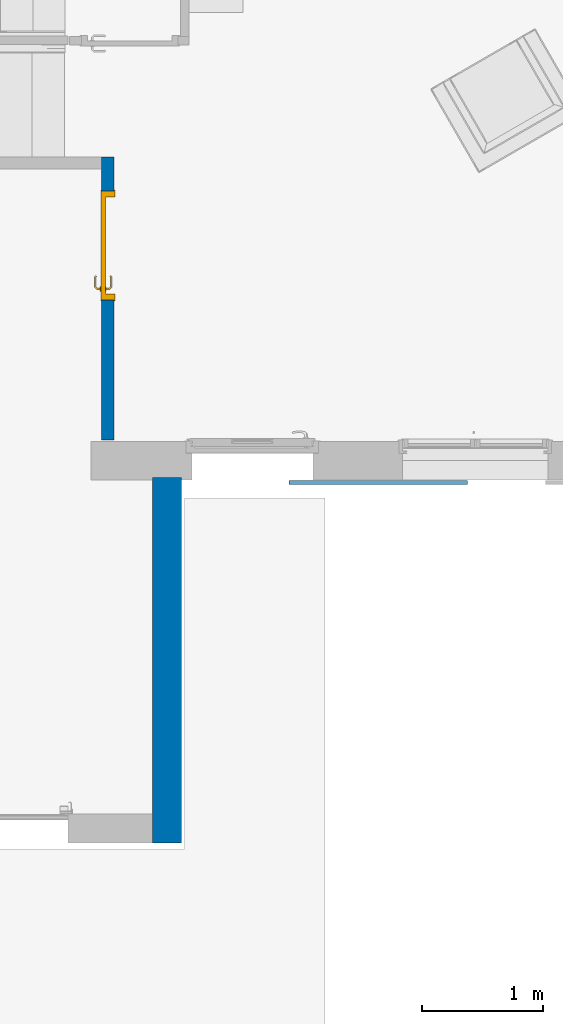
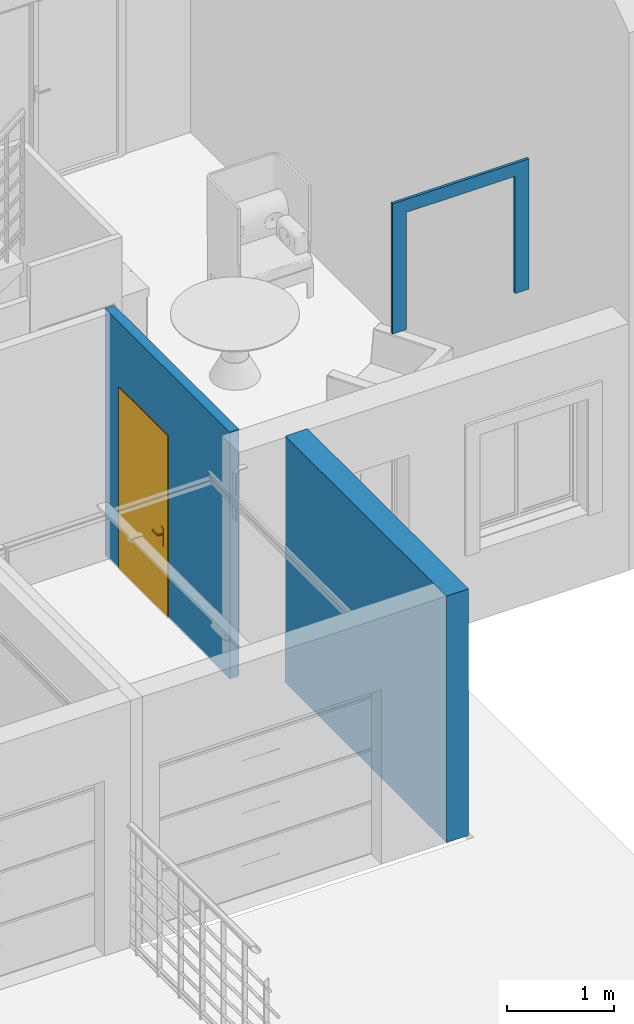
# One storey, part 19 of 30: 3 walls, 1 door, 2 openings.
"""IFC2X3 building model written with IfcOpenShell, lengths in metres."""

from ifc_helpers import new_model, entity, si_unit, converted_unit, derived_unit, direction, frame, frame_2d, origin, place, context, subcontext, project, spatial, rectangle, extrude, clip, halfspace, faceted_brep, source, transform, mapped, material, material_list, layer, layer_set, layer_usage, type_object, type_shapes, element, fill, save


model = new_model("IFC2X3")

# Units and contexts
model_context = context("Model", 3, precision=1e-05, world=origin(), true_north=direction((6.12303176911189e-17, 1.0)))
body_context = subcontext(model_context, "Body", "Model", "MODEL_VIEW")
ifc_project = project(units=[si_unit("LENGTHUNIT", "METRE"), si_unit("AREAUNIT", "SQUARE_METRE"), si_unit("VOLUMEUNIT", "CUBIC_METRE"), converted_unit("PLANEANGLEUNIT", "DEGREE", entity("IfcRatioMeasure", 0.0174532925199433), si_unit("PLANEANGLEUNIT", "RADIAN"), dimensions=[0, 0, 0, 0, 0, 0, 0]), si_unit("MASSUNIT", "GRAM", prefix="KILO"), derived_unit("MASSDENSITYUNIT", [(si_unit("MASSUNIT", "GRAM", prefix="KILO"), 1), (si_unit("LENGTHUNIT", "METRE"), -3)]), si_unit("TIMEUNIT", "SECOND"), si_unit("FREQUENCYUNIT", "HERTZ"), si_unit("THERMODYNAMICTEMPERATUREUNIT", "DEGREE_CELSIUS"), derived_unit("THERMALTRANSMITTANCEUNIT", [(si_unit("MASSUNIT", "GRAM", prefix="KILO"), 1), (si_unit("THERMODYNAMICTEMPERATUREUNIT", "KELVIN"), -1), (si_unit("TIMEUNIT", "SECOND"), -3)]), derived_unit("VOLUMETRICFLOWRATEUNIT", [(si_unit("LENGTHUNIT", "METRE"), 3), (si_unit("TIMEUNIT", "SECOND"), -1)]), si_unit("ELECTRICCURRENTUNIT", "AMPERE"), si_unit("ELECTRICVOLTAGEUNIT", "VOLT"), si_unit("POWERUNIT", "WATT"), si_unit("FORCEUNIT", "NEWTON", prefix="KILO"), si_unit("ILLUMINANCEUNIT", "LUX"), si_unit("LUMINOUSFLUXUNIT", "LUMEN"), si_unit("LUMINOUSINTENSITYUNIT", "CANDELA"), derived_unit("USERDEFINED", [(si_unit("MASSUNIT", "GRAM", prefix="KILO"), -1), (si_unit("LENGTHUNIT", "METRE"), -2), (si_unit("TIMEUNIT", "SECOND"), 3), (si_unit("LUMINOUSFLUXUNIT", "LUMEN"), 1)]), derived_unit("LINEARVELOCITYUNIT", [(si_unit("LENGTHUNIT", "METRE"), 1), (si_unit("TIMEUNIT", "SECOND"), -1)]), si_unit("PRESSUREUNIT", "PASCAL"), derived_unit("USERDEFINED", [(si_unit("LENGTHUNIT", "METRE"), -2), (si_unit("MASSUNIT", "GRAM", prefix="KILO"), 1), (si_unit("TIMEUNIT", "SECOND"), -2)])], contexts=[model_context])

# Site, building, storey
site_placement = place(None, origin())
site = spatial("IfcSite", under=ifc_project, at=site_placement, Name="Surface", CompositionType="ELEMENT")
building_placement = place(site_placement, origin())
building = spatial("IfcBuilding", under=site, at=building_placement, CompositionType="ELEMENT")
storey_placement = place(building_placement, origin())
storey = spatial("IfcBuildingStorey", under=building, at=storey_placement, Name="Plan des fondations  Maisons 1 et 2", CompositionType="ELEMENT", Elevation=0.0)

# Wall
ifc_material_1 = material(Name="Enduit  gris")
ifc_layer_1 = layer(ifc_material_1, 0.02)
ifc_material_2 = material(Name="Parpaing")
ifc_layer_2 = layer(ifc_material_2, 0.2)
ifc_layer_3 = layer(ifc_material_1, 0.02)
ifc_layer_set_1 = layer_set([ifc_layer_1, ifc_layer_2, ifc_layer_3], Name="Mur de base:Ext. Parpaing 2 + 20 + 2 gris")
ifc_layer_usage_1 = layer_usage(ifc_layer_set_1, "AXIS2", "NEGATIVE", 0.12)
wall_type_1 = type_object("IfcWallType", Name="Mur de base:Ext. Parpaing 2 + 20 + 2 gris", PredefinedType="STANDARD", material=ifc_layer_set_1)
wall_1_placement = place(building_placement, frame((87.2467857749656, 80.9275239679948, 0.0), z_axis=(0.0, 0.0, 1.0), x_axis=(0.0, 1.0, 0.0)))
element("IfcWallStandardCase", 1, at=wall_1_placement, inside=storey, type_object=wall_type_1, material=ifc_layer_usage_1, Name="Mur de base:Ext. Parpaing 2 + 20 + 2 gris", ObjectType="Mur de base:Ext. Parpaing 2 + 20 + 2 gris", context=body_context, shape_type="SweptSolid", body=[
    extrude(rectangle(XDim=3.02000000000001, YDim=0.240000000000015, at=frame_2d((1.51, -3.79557496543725e-15), x_axis=(-1.0, 0.0))), origin(), (0.0, 0.0, 1.0), 2.82),
])

# Wall, opening, door
ifc_material_3 = material(Name="Peinture - Blanc")
ifc_layer_4 = layer(ifc_material_3, 0.1)
ifc_layer_set_2 = layer_set([ifc_layer_4], Name="Mur de base:Int.  Platre 100 mm en blanc 2")
ifc_layer_usage_2 = layer_usage(ifc_layer_set_2, "AXIS2", "NEGATIVE", 0.05)
wall_type_2 = type_object("IfcWallType", Name="Mur de base:Int.  Platre 100 mm en blanc 2", PredefinedType="STANDARD", material=ifc_layer_set_2)
wall_2_placement = place(building_placement, frame((86.7567857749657, 84.2575239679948, 0.0), z_axis=(0.0, 0.0, 1.0), x_axis=(0.0, 1.0, 0.0)))
wall_2 = element("IfcWallStandardCase", 2, at=wall_2_placement, inside=storey, type_object=wall_type_2, material=ifc_layer_usage_2, Name="Mur de base:Int.  Platre 100 mm en blanc 2", ObjectType="Mur de base:Int.  Platre 100 mm en blanc 2", context=body_context, shape_type="SweptSolid", body=[
    extrude(rectangle(XDim=2.33999999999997, YDim=0.100000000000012, at=frame_2d((1.16999999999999, 3.77475828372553e-15), x_axis=(-1.0, 0.0))), origin(), (0.0, 0.0, 1.0), 2.82),
])
opening_1_placement = place(wall_2_placement, frame((1.15999999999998, -0.0499999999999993, 0.0)))
opening_1 = element("IfcOpeningElement", 3, at=opening_1_placement, cuts=wall_2, Name="FR_Simple (R):83 x 204 - (80):1", ObjectType="Opening", context=body_context, shape_type="SweptSolid", body=[
    extrude(rectangle(XDim=2.075, YDim=0.9, at=frame_2d((1.0375, 0.45), x_axis=(1.0, 0.0))), frame((0.0, 0.0, 0.0), z_axis=(0.0, 1.0, 0.0), x_axis=(0.0, 0.0, 1.0)), (0.0, 0.0, 1.0), 0.1),
])
ifc_material_4 = material(Name="Poignée Porte")
ifc_material_5 = material(Name="Dormants Portes")
ifc_material_6 = material(Name="Panneaux Portes")
ifc_material_list_1 = material_list([ifc_material_4, ifc_material_5, ifc_material_6])
ifc_material_list_2 = material_list([ifc_material_4, ifc_material_5, ifc_material_6])
door_style = type_object("IfcDoorStyle", Name="83 x 204 - (80)", ConstructionType="NOTDEFINED", OperationType="SINGLE_SWING_RIGHT", ParameterTakesPrecedence=False, Sizeable=False, material=ifc_material_list_2)
shared_shape = source(origin(), body_context, "Body", "Brep", [
    faceted_brep([(0.810000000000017, -0.0130000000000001, 0.764641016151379), (0.820352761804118, -0.0130000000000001, 0.766003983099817), (0.830000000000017, -0.0130000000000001, 0.770000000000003), (0.830000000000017, -0.0130000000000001, 0.980000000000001), (0.820352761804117, -0.0130000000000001, 0.983996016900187), (0.810000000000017, -0.0130000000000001, 0.985358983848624), (0.799647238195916, -0.0130000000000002, 0.983996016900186), (0.790000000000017, -0.0130000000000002, 0.980000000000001), (0.790000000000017, -0.0130000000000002, 0.770000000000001), (0.799647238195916, -0.0130000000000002, 0.766003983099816), (0.830000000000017, -0.00800000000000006, 0.980000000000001), (0.830000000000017, -0.00800000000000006, 0.770000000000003), (0.820352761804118, -0.00800000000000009, 0.766003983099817), (0.810000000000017, -0.00800000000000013, 0.764641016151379), (0.799647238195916, -0.00800000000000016, 0.766003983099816), (0.790000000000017, -0.00800000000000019, 0.770000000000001), (0.790000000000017, -0.00800000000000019, 0.980000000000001), (0.799647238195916, -0.00800000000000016, 0.983996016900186), (0.810000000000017, -0.00800000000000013, 0.985358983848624), (0.820352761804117, -0.00800000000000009, 0.983996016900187)], [[[0, 1, 2, 3, 4, 5, 6, 7, 8, 9]], [[10, 11, 12, 13, 14, 15, 16, 17, 18, 19]], [[1, 12, 11, 2]], [[0, 13, 12, 1]], [[9, 14, 13, 0]], [[9, 8, 15, 14]], [[15, 8, 7, 16]], [[6, 17, 16, 7]], [[5, 18, 17, 6]], [[4, 19, 18, 5]], [[4, 3, 10, 19]], [[10, 3, 2, 11]]]),
    faceted_brep([(0.830000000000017, 0.0319999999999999, 0.770000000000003), (0.830000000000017, 0.0319999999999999, 0.980000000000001), (0.820352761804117, 0.0319999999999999, 0.983996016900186), (0.810000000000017, 0.0319999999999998, 0.985358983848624), (0.799647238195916, 0.0319999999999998, 0.983996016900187), (0.790000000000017, 0.0319999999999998, 0.980000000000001), (0.790000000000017, 0.0319999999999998, 0.770000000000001), (0.799647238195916, 0.0319999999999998, 0.766003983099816), (0.810000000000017, 0.0319999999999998, 0.764641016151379), (0.820352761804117, 0.0319999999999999, 0.766003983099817), (0.810000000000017, 0.0369999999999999, 0.985358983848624), (0.820352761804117, 0.0369999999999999, 0.983996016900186), (0.830000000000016, 0.0369999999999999, 0.980000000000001), (0.830000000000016, 0.0369999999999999, 0.770000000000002), (0.820352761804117, 0.0369999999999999, 0.766003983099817), (0.810000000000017, 0.0369999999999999, 0.764641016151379), (0.799647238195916, 0.0369999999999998, 0.766003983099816), (0.790000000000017, 0.0369999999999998, 0.770000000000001), (0.790000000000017, 0.0369999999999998, 0.980000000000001), (0.799647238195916, 0.0369999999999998, 0.983996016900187)], [[[0, 1, 2, 3, 4, 5, 6, 7, 8, 9]], [[10, 11, 12, 13, 14, 15, 16, 17, 18, 19]], [[4, 19, 18, 5]], [[3, 10, 19, 4]], [[2, 11, 10, 3]], [[2, 1, 12, 11]], [[12, 1, 0, 13]], [[9, 14, 13, 0]], [[8, 15, 14, 9]], [[7, 16, 15, 8]], [[7, 6, 17, 16]], [[17, 6, 5, 18]]]),
    faceted_brep([(0.807974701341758, -0.0130000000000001, 0.907780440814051), (0.812025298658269, -0.0130000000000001, 0.907780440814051), (0.816000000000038, -0.0130000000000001, 0.906999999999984), (0.816000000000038, -0.0130000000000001, 0.892999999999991), (0.812025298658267, -0.0130000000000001, 0.892219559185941), (0.807974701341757, -0.0130000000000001, 0.89221955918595), (0.80399999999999, -0.0130000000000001, 0.893000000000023), (0.803999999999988, -0.0130000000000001, 0.90699999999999), (0.812025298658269, -0.0390045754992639, 0.907780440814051), (0.816000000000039, -0.0406509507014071, 0.906999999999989), (0.807974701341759, -0.0373267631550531, 0.907780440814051), (0.794298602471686, -0.0510028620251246, 0.907780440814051), (0.795976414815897, -0.0550534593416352, 0.907780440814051), (0.709142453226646, -0.0550534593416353, 0.90778044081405), (0.710820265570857, -0.0510028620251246, 0.90778044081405), (0.704342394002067, -0.0445249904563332, 0.90778044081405), (0.701478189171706, -0.0473891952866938, 0.90778044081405), (0.803999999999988, -0.0356803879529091, 0.90699999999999), (0.80399999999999, -0.0356803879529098, 0.893000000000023), (0.807974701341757, -0.0373267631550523, 0.89221955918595), (0.812025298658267, -0.0390045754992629, 0.89221955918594), (0.795976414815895, -0.0550534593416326, 0.89221955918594), (0.794298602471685, -0.0510028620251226, 0.89221955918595), (0.710820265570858, -0.0510028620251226, 0.89221955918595), (0.709142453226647, -0.0550534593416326, 0.89221955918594), (0.701478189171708, -0.0473891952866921, 0.89221955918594), (0.704342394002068, -0.044524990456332, 0.89221955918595), (0.816000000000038, -0.0406509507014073, 0.892999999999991), (0.797622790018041, -0.059028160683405, 0.906999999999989), (0.792652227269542, -0.0470281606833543, 0.90699999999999), (0.792652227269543, -0.0470281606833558, 0.893000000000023), (0.79762279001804, -0.0590281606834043, 0.892999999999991), (0.752559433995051, -0.053182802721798, 0.907878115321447), (0.757692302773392, -0.0590281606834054, 0.906999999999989), (0.707496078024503, -0.0590281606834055, 0.906999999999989), (0.752559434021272, -0.0470281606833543, 0.90699999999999), (0.712466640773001, -0.0470281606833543, 0.906999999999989), (0.752559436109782, -0.0470281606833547, 0.893000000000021), (0.712466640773, -0.0470281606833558, 0.893000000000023), (0.752559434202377, -0.0531828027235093, 0.892121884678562), (0.747426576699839, -0.0590281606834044, 0.892999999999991), (0.707496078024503, -0.0590281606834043, 0.892999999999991), (0.707152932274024, -0.0417144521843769, 0.89300000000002), (0.69866765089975, -0.0501997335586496, 0.892999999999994), (0.698667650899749, -0.0501997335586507, 0.906999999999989), (0.707152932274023, -0.0417144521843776, 0.906999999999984)], [[[0, 1, 2, 3, 4, 5, 6, 7]], [[2, 1, 8, 9]], [[1, 0, 10, 11, 12, 8]], [[13, 14, 15, 16]], [[0, 7, 17, 10]], [[18, 17, 7, 6]], [[5, 19, 18, 6]], [[5, 4, 20, 21, 22, 19]], [[23, 24, 25, 26]], [[3, 27, 20, 4]], [[9, 27, 3, 2]], [[9, 8, 12, 28]], [[10, 17, 29, 11]], [[30, 29, 17, 18]], [[18, 19, 22, 30]], [[20, 27, 31, 21]], [[28, 31, 27, 9]], [[12, 32, 33]], [[13, 33, 32]], [[33, 28, 12]], [[33, 13, 34]], [[11, 35, 32]], [[32, 12, 11]], [[32, 35, 14]], [[35, 11, 29]], [[36, 14, 35]], [[13, 32, 14]], [[30, 37, 38, 36, 35, 29]], [[39, 37, 22]], [[40, 41, 24]], [[40, 21, 31]], [[39, 21, 40]], [[23, 37, 39]], [[39, 24, 23]], [[30, 22, 37]], [[37, 23, 38]], [[21, 39, 22]], [[24, 39, 40]], [[31, 28, 33, 34, 41, 40]], [[42, 26, 25, 43, 44, 16, 15, 45]], [[13, 16, 44, 34]], [[36, 45, 15, 14]], [[42, 45, 36, 38]], [[38, 23, 26, 42]], [[24, 41, 43, 25]], [[44, 43, 41, 34]]]),
    faceted_brep([(0.812025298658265, 0.0369999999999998, 0.907780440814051), (0.807974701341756, 0.0369999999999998, 0.907780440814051), (0.803999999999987, 0.0369999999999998, 0.90699999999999), (0.803999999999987, 0.0369999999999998, 0.89300000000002), (0.807974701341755, 0.0369999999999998, 0.892219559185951), (0.812025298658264, 0.0369999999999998, 0.892219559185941), (0.816000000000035, 0.0369999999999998, 0.892999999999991), (0.816000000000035, 0.0369999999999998, 0.90699999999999), (0.803999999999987, 0.0594852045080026, 0.90699999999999), (0.803999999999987, 0.0594852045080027, 0.89300000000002), (0.807974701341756, 0.0611315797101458, 0.907780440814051), (0.812025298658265, 0.0628093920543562, 0.907780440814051), (0.795838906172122, 0.0789957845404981, 0.907780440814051), (0.794161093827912, 0.0749451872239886, 0.907780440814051), (0.71079312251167, 0.0749451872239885, 0.907780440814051), (0.70911531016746, 0.0789957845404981, 0.907780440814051), (0.701451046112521, 0.071331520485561, 0.907780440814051), (0.70431525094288, 0.0684673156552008, 0.907780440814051), (0.816000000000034, 0.0644557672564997, 0.90699999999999), (0.816000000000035, 0.0644557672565, 0.892999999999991), (0.812025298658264, 0.0628093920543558, 0.892219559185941), (0.807974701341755, 0.0611315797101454, 0.892219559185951), (0.794161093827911, 0.0749451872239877, 0.892219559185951), (0.795838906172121, 0.0789957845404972, 0.892219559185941), (0.70911531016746, 0.0789957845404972, 0.89221955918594), (0.71079312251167, 0.0749451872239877, 0.89221955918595), (0.704315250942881, 0.0684673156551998, 0.89221955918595), (0.701451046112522, 0.07133152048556, 0.89221955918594), (0.792514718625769, 0.07097048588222, 0.89300000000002), (0.792514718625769, 0.0709704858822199, 0.90699999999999), (0.797485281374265, 0.0829704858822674, 0.90699999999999), (0.797485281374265, 0.082970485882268, 0.892999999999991), (0.752477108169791, 0.0709704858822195, 0.90699999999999), (0.712439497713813, 0.0709704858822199, 0.90699999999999), (0.712439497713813, 0.0709704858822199, 0.89300000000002), (0.752477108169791, 0.0709704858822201, 0.89300000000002), (0.752477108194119, 0.0771249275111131, 0.907878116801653), (0.747399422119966, 0.0829704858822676, 0.90699999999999), (0.707468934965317, 0.0829704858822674, 0.90699999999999), (0.757554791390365, 0.0829704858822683, 0.892999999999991), (0.707468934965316, 0.082970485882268, 0.892999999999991), (0.752477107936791, 0.0771249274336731, 0.892121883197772), (0.698640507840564, 0.0741420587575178, 0.90699999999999), (0.698640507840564, 0.074142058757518, 0.892999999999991), (0.707125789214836, 0.0656567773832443, 0.89300000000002), (0.707125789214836, 0.0656567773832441, 0.90699999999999)], [[[0, 1, 2, 3, 4, 5, 6, 7]], [[8, 9, 3, 2]], [[1, 10, 8, 2]], [[1, 0, 11, 12, 13, 10]], [[14, 15, 16, 17]], [[7, 18, 11, 0]], [[18, 7, 6, 19]], [[6, 5, 20, 19]], [[5, 4, 21, 22, 23, 20]], [[24, 25, 26, 27]], [[4, 3, 9, 21]], [[28, 9, 8, 29]], [[8, 10, 13, 29]], [[18, 30, 12, 11]], [[31, 30, 18, 19]], [[19, 20, 23, 31]], [[21, 9, 28, 22]], [[28, 29, 32, 33, 34, 35]], [[36, 32, 13]], [[37, 38, 15]], [[37, 12, 30]], [[36, 12, 37]], [[14, 32, 36]], [[36, 15, 14]], [[29, 13, 32]], [[32, 14, 33]], [[12, 36, 13]], [[15, 36, 37]], [[30, 31, 39, 40, 38, 37]], [[23, 41, 39]], [[24, 39, 41]], [[39, 31, 23]], [[39, 24, 40]], [[22, 35, 41]], [[41, 23, 22]], [[41, 35, 25]], [[35, 22, 28]], [[34, 25, 35]], [[24, 41, 25]], [[17, 16, 42, 43, 27, 26, 44, 45]], [[44, 34, 33, 45]], [[33, 14, 17, 45]], [[15, 38, 42, 16]], [[42, 38, 40, 43]], [[24, 27, 43, 40]], [[34, 44, 26, 25]]]),
    faceted_brep([(0.900000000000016, 0.0, 0.0), (0.910000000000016, 0.0, 0.0), (0.910000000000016, -0.00799999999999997, 0.0), (0.865000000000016, -0.00799999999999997, 0.0), (0.865000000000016, 0.032, 0.0), (0.850000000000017, 0.032, 0.0), (0.850000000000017, 0.108000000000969, 0.0), (0.910000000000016, 0.108000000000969, 0.0), (0.910000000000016, 0.10000000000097, 0.0), (0.900000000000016, 0.10000000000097, 0.0), (0.900000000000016, 0.10000000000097, 2.075), (0.900000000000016, 0.0, 2.075), (0.910000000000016, 0.10000000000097, 2.085), (-0.00999999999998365, 0.10000000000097, 2.085), (-0.00999999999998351, 0.10000000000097, 0.0), (0.0, 0.10000000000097, 0.0), (0.0, 0.10000000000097, 2.075), (0.910000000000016, 0.108000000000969, 2.085), (0.850000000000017, 0.108000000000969, 2.025), (0.0500000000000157, 0.108000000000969, 2.025), (0.0500000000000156, 0.108000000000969, 0.0), (-0.00999999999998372, 0.108000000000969, 0.0), (-0.00999999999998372, 0.108000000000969, 2.085), (0.850000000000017, 0.032, 2.025), (0.865000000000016, 0.032, 2.04), (0.0350000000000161, 0.032, 2.04), (0.0350000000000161, 0.032, 0.0), (0.0500000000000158, 0.032, 0.0), (0.0500000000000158, 0.032, 2.025), (0.865000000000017, -0.00799999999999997, 2.04), (0.910000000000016, -0.00799999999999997, 2.085), (-0.00999999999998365, -0.00799999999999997, 2.085), (-0.00999999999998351, -0.00799999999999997, 0.0), (0.0350000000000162, -0.00799999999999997, 0.0), (0.0350000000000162, -0.00799999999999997, 2.04), (0.910000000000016, 0.0, 2.085), (0.0, 0.0, 2.075), (0.0, 0.0, 0.0), (-0.00999999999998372, 0.0, 0.0), (-0.00999999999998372, 0.0, 2.085)], [[[0, 1, 2, 3, 4, 5, 6, 7, 8, 9]], [[9, 10, 11, 0]], [[8, 12, 13, 14, 15, 16, 10, 9]], [[7, 17, 12, 8]], [[6, 18, 19, 20, 21, 22, 17, 7]], [[5, 23, 18, 6]], [[4, 24, 25, 26, 27, 28, 23, 5]], [[3, 29, 24, 4]], [[2, 30, 31, 32, 33, 34, 29, 3]], [[1, 35, 30, 2]], [[0, 11, 36, 37, 38, 39, 35, 1]], [[10, 16, 36, 11]], [[17, 22, 13, 12]], [[23, 28, 19, 18]], [[29, 34, 25, 24]], [[35, 39, 31, 30]], [[37, 15, 14, 21, 20, 27, 26, 33, 32, 38]], [[16, 15, 37, 36]], [[22, 21, 14, 13]], [[28, 27, 20, 19]], [[34, 33, 26, 25]], [[39, 38, 32, 31]]]),
    faceted_brep([(0.865000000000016, -0.00799999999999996, 2.04), (0.0350000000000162, -0.00799999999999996, 2.04), (0.0350000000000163, -0.00799999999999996, 0.0), (0.865000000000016, -0.00799999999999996, 0.0), (0.865000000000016, 0.032, 2.04), (0.865000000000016, 0.032, 0.0), (0.0350000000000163, 0.032, 0.0), (0.0350000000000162, 0.032, 2.04)], [[[0, 1, 2, 3]], [[4, 5, 6, 7]], [[3, 5, 4, 0]], [[2, 6, 5, 3]], [[1, 7, 6, 2]], [[0, 4, 7, 1]]]),
])
type_shapes(door_style, [shared_shape])
door_placement = place(opening_1_placement, frame((0.899999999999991, 0.100000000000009, 0.0), z_axis=(0.0, 0.0, 1.0), x_axis=(-1.0, 0.0, 0.0)))
door = element("IfcDoor", 4, at=door_placement, inside=storey, type_object=door_style, material=ifc_material_list_1, Name="FR_Simple (R):83 x 204 - (80)", ObjectType="FR_Simple (R):83 x 204 - (80)", OverallHeight=2.075, OverallWidth=0.900000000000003, context=body_context, shape_type="MappedRepresentation", body=[
    mapped(shared_shape, transform((0.0, 0.0, 0.0), scale=1.0)),
])
fill(opening_1, door)

# Wall, opening
ifc_material_7 = material(Name="Enduit blanc cassé")
ifc_layer_5 = layer(ifc_material_7, 0.01)
ifc_layer_6 = layer(ifc_material_2, 0.01)
ifc_layer_7 = layer(ifc_material_7, 0.01)
ifc_layer_set_3 = layer_set([ifc_layer_5, ifc_layer_6, ifc_layer_7], Name="Mur de base:modénateurs ep 2 cm gris")
ifc_layer_usage_3 = layer_usage(ifc_layer_set_3, "AXIS2", "NEGATIVE", 0.015)
wall_type_3 = type_object("IfcWallType", Name="Mur de base:modénateurs ep 2 cm gris", PredefinedType="STANDARD", material=ifc_layer_set_3)
wall_3_placement = place(storey_placement, frame((88.2566320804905, 83.9075239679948, 3.62087456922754)))
wall_3 = element("IfcWallStandardCase", 5, at=wall_3_placement, inside=storey, type_object=wall_type_3, material=ifc_layer_usage_3, Name="Mur de base:modénateurs ep 2 cm gris", ObjectType="Mur de base:modénateurs ep 2 cm gris", context=body_context, shape_type="Clipping", body=[
    clip(extrude(rectangle(XDim=1.47499999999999, YDim=0.0299999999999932, at=frame_2d((0.737499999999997, 0.0), x_axis=(-1.0, 0.0))), origin(), (0.0, 0.0, 1.0), 1.48912543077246), halfspace(frame((1.47499999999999, -0.0149999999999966, 0.0), z_axis=(0.0, 0.0, -1.0), x_axis=(0.0, 1.0, 0.0)), False)),
])
opening_2_placement = place(wall_3_placement, origin())
element("IfcOpeningElement", 6, at=opening_2_placement, cuts=wall_3, Name="Mur de base:modénateurs ep 2 cm gris", ObjectType="Opening", context=body_context, shape_type="SweptSolid", body=[
    extrude(rectangle(XDim=1.33912543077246, YDim=1.17499999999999, at=frame_2d((0.0, 2.77555756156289e-16), x_axis=(0.0, 1.0))), frame((0.737499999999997, 0.0149999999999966, 0.669562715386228), z_axis=(0.0, -1.0, 0.0), x_axis=(1.0, 0.0, 0.0)), (0.0, 0.0, 1.0), 0.03),
])

save(model, "model.ifc")
